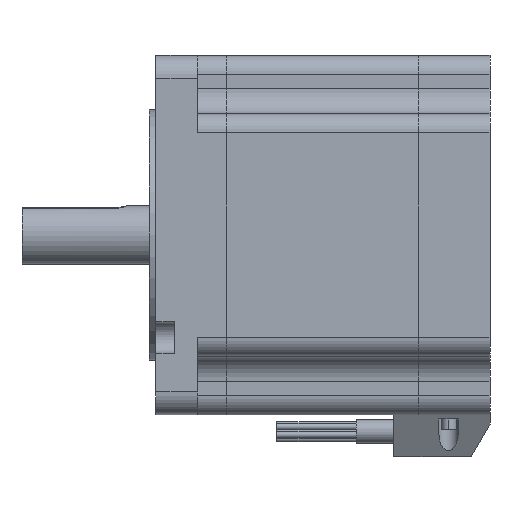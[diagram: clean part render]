
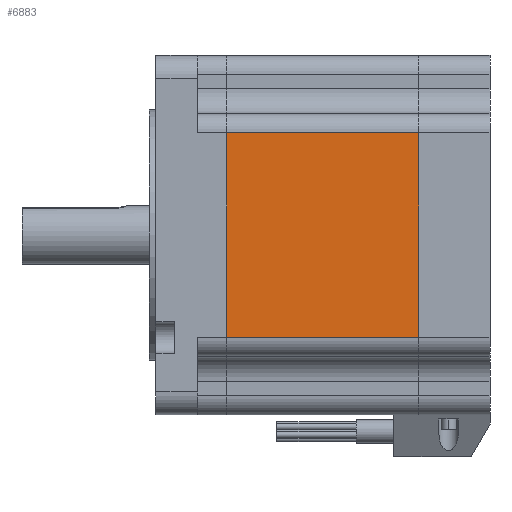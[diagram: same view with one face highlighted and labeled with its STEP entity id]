
A CAD part, left-side view. The second image highlights one B-rep face of the part: STEP entity #6883.
In plain terms, the highlighted planar face has unit normal (-1, 0, 0).
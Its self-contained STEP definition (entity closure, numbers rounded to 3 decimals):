
#73 = EDGE_LOOP ( 'NONE', ( #502, #4206, #5034, #3908 ) ) ;
#88 = DIRECTION ( 'NONE',  ( 0., 0., 1. ) ) ;
#90 = LINE ( 'NONE', #2840, #2745 ) ;
#197 = PLANE ( 'NONE',  #862 ) ;
#502 = ORIENTED_EDGE ( 'NONE', *, *, #3401, .T. ) ;
#711 = LINE ( 'NONE', #5160, #6072 ) ;
#862 = AXIS2_PLACEMENT_3D ( 'NONE', #2951, #3085, #1320 ) ;
#969 = VERTEX_POINT ( 'NONE', #7101 ) ;
#1218 = DIRECTION ( 'NONE',  ( 0., 0., 1. ) ) ;
#1320 = DIRECTION ( 'NONE',  ( 0., 0., -1. ) ) ;
#1704 = DIRECTION ( 'NONE',  ( 0., -1., 0. ) ) ;
#1807 = LINE ( 'NONE', #4444, #5611 ) ;
#2314 = CARTESIAN_POINT ( 'NONE',  ( -43., 46., 24.5 ) ) ;
#2745 = VECTOR ( 'NONE', #1704, 1000. ) ;
#2840 = CARTESIAN_POINT ( 'NONE',  ( -43., 46., 24.5 ) ) ;
#2951 = CARTESIAN_POINT ( 'NONE',  ( -43., 46., 0. ) ) ;
#3050 = FACE_OUTER_BOUND ( 'NONE', #73, .T. ) ;
#3085 = DIRECTION ( 'NONE',  ( 1., 0., 0. ) ) ;
#3401 = EDGE_CURVE ( 'NONE', #969, #3504, #711, .T. ) ;
#3419 = CARTESIAN_POINT ( 'NONE',  ( -43., 46., -24.5 ) ) ;
#3504 = VERTEX_POINT ( 'NONE', #4564 ) ;
#3844 = EDGE_CURVE ( 'NONE', #5318, #5451, #1807, .T. ) ;
#3908 = ORIENTED_EDGE ( 'NONE', *, *, #3917, .T. ) ;
#3917 = EDGE_CURVE ( 'NONE', #5318, #969, #5599, .T. ) ;
#4038 = DIRECTION ( 'NONE',  ( 0., -1., 0. ) ) ;
#4206 = ORIENTED_EDGE ( 'NONE', *, *, #6804, .F. ) ;
#4444 = CARTESIAN_POINT ( 'NONE',  ( -43., 46., 0. ) ) ;
#4564 = CARTESIAN_POINT ( 'NONE',  ( -43., 0., 24.5 ) ) ;
#5034 = ORIENTED_EDGE ( 'NONE', *, *, #3844, .F. ) ;
#5160 = CARTESIAN_POINT ( 'NONE',  ( -43., 0., 0. ) ) ;
#5318 = VERTEX_POINT ( 'NONE', #6141 ) ;
#5451 = VERTEX_POINT ( 'NONE', #2314 ) ;
#5599 = LINE ( 'NONE', #3419, #6786 ) ;
#5611 = VECTOR ( 'NONE', #88, 1000. ) ;
#6072 = VECTOR ( 'NONE', #1218, 1000. ) ;
#6141 = CARTESIAN_POINT ( 'NONE',  ( -43., 46., -24.5 ) ) ;
#6786 = VECTOR ( 'NONE', #4038, 1000. ) ;
#6804 = EDGE_CURVE ( 'NONE', #5451, #3504, #90, .T. ) ;
#6883 = ADVANCED_FACE ( 'NONE', ( #3050 ), #197, .F. ) ;
#7101 = CARTESIAN_POINT ( 'NONE',  ( -43., 0., -24.5 ) ) ;
